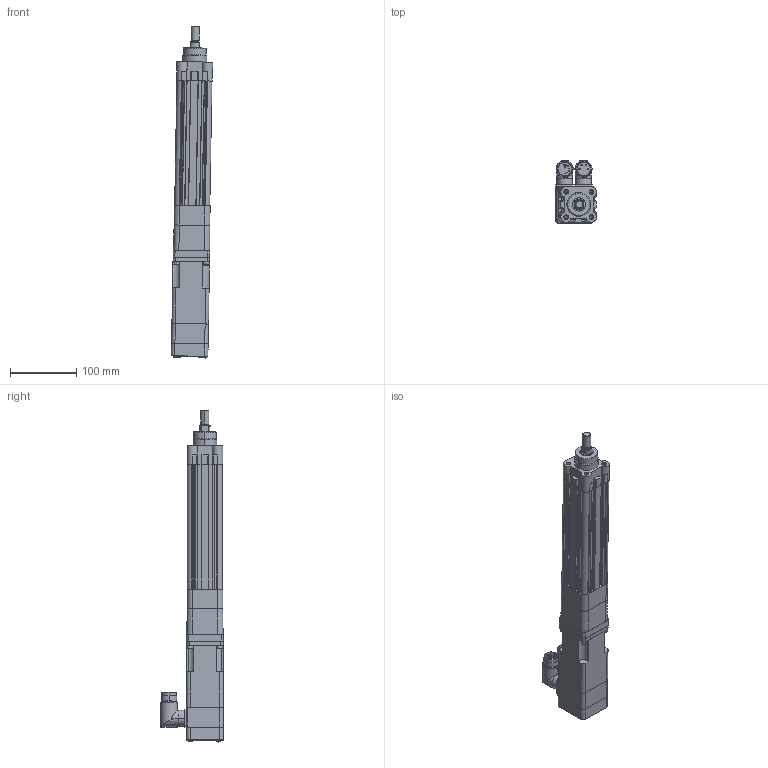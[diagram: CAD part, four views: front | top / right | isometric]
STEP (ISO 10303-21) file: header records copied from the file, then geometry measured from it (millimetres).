
FILE_DESCRIPTION (( 'STEP AP214' ), '1' );
FILE_NAME ('Rockwell Automation-MPAR-x2x00C-VxA-MPAR-x2100C-V2A.STEP', '2012-03-12T13:06:29', ( 'SysAdmin' ), ( 'SolidWorks' ), 'SwSTEP 2.0', 'SolidWorks 2012', '' );
FILE_SCHEMA (( 'AUTOMOTIVE_DESIGN' ));
Length unit declared in the file: millimetre
Products named in the file (14): Rockwell Automation-MPAR-x2x00C-VxA-MPAR-x2100C-V2A_MPAR-x2100x; Rockwell Automation-MPAR-x2x00C-VxA-MPAR-x2100C-V2A_2-543131; Rockwell Automation-MPAR-x2x00C-VxA-MPAR-x2100C-V2A_1-543131; Rockwell Automation-MPAR-x2x00C-VxA-MPAR-x2100C-V2A__MPL-x1530F-V-X207_MPL-x1530x-xJ42AA; Rockwell Automation-MPAR-x2x00C-VxA-MPAR-x2100C-V2A__MPL-x1530x-xJ42AA_MPL-15xx-Power Connector; Rockwell Automation-MPAR-x2x00C-VxA-MPAR-x2100C-V2A__MPL-x1530x-xJ42AA_MPL-15xx-Feedback Connector; Rockwell Automation-MPAR-x2x00C-VxA-MPAR-x2100C-V2A__MPL-x1530x-xJ42AA_MPL-15xx-Shaft-Key_1530-SHAFT-KEYED; Rockwell Automation-MPAR-x2x00C-VxA-MPAR-x2100C-V2A__MPL-x1530x-xJ42AA_MPL-15xx-Body_1530; Rockwell Automation-MPAR-x2x00C-VxA-MPAR-x2100C-V2A_DIN912-5X20; Rockwell Automation-MPAR-x2x00C-VxA-MPAR-x2100C-V2A_DIN912-4X12; Rockwell Automation-MPAR-x2x00C-VxA-MPAR-x2100C-V2A_627453; Rockwell Automation-MPAR-x2x00C-VxA-MPAR-x2100C-V2A_DIN912-6X30; Rockwell Automation-MPAR-x2x00C-VxA-MPAR-x2100C-V2A_627459; Rockwell Automation-MPAR-x2x00C-VxA-MPAR-x2100C-V2A
Assembly tree (21 placements, depth 3):
  Rockwell Automation-MPAR-x2x00C-VxA-MPAR-x2100C-V2A
    Rockwell Automation-MPAR-x2x00C-VxA-MPAR-x2100C-V2A_627459
    Rockwell Automation-MPAR-x2x00C-VxA-MPAR-x2100C-V2A_DIN912-6X30  x4
    Rockwell Automation-MPAR-x2x00C-VxA-MPAR-x2100C-V2A_627453
    Rockwell Automation-MPAR-x2x00C-VxA-MPAR-x2100C-V2A_DIN912-4X12  x3
    Rockwell Automation-MPAR-x2x00C-VxA-MPAR-x2100C-V2A_DIN912-5X20  x4
    Rockwell Automation-MPAR-x2x00C-VxA-MPAR-x2100C-V2A__MPL-x1530F-V-X207_MPL-x1530x-xJ42AA
      Rockwell Automation-MPAR-x2x00C-VxA-MPAR-x2100C-V2A__MPL-x1530x-xJ42AA_MPL-15xx-Body_1530
      Rockwell Automation-MPAR-x2x00C-VxA-MPAR-x2100C-V2A__MPL-x1530x-xJ42AA_MPL-15xx-Shaft-Key_1530-SHAFT-KEYED
      Rockwell Automation-MPAR-x2x00C-VxA-MPAR-x2100C-V2A__MPL-x1530x-xJ42AA_MPL-15xx-Feedback Connector
      Rockwell Automation-MPAR-x2x00C-VxA-MPAR-x2100C-V2A__MPL-x1530x-xJ42AA_MPL-15xx-Power Connector
    Rockwell Automation-MPAR-x2x00C-VxA-MPAR-x2100C-V2A_MPAR-x2100x
      Rockwell Automation-MPAR-x2x00C-VxA-MPAR-x2100C-V2A_1-543131
      Rockwell Automation-MPAR-x2x00C-VxA-MPAR-x2100C-V2A_2-543131
Bounding box: 62.29 x 94.15 x 500.81 mm (x, y, z)
Volume: 891426.3 mm3; surface area: 253752.6 mm2
Topology: 22 solids, 27 shells, 1548 faces, 3744 edges, 2348 vertices
Faces by surface type: plane 642, cylinder 510, cone 283, bspline 65, torus 48
Entity records: 46363 total; most frequent: CARTESIAN_POINT 10820, DIRECTION 7221, ORIENTED_EDGE 6692, EDGE_CURVE 3350, AXIS2_PLACEMENT_3D 2719, VERTEX_POINT 2124, VECTOR 1783, LINE 1783
